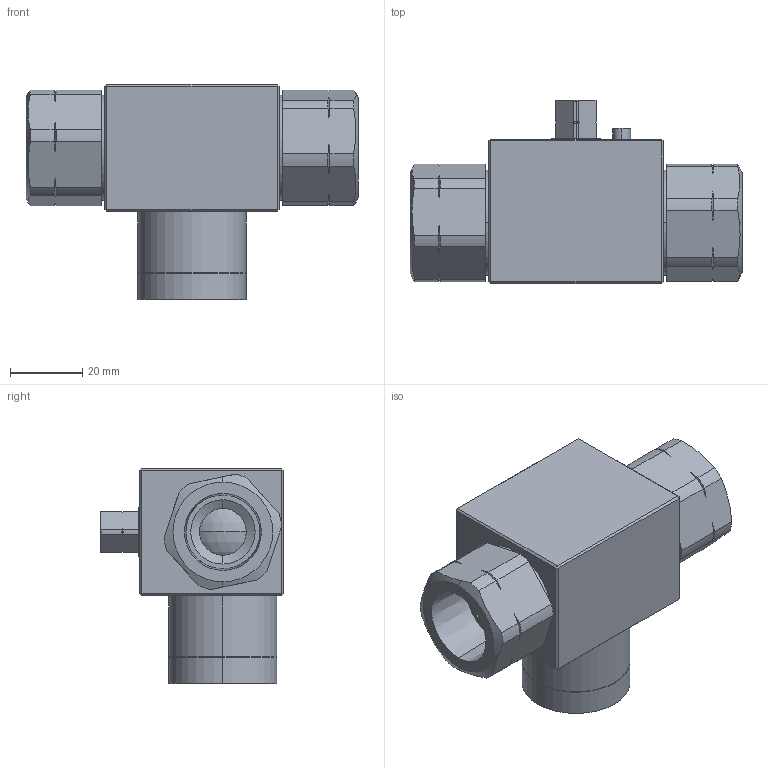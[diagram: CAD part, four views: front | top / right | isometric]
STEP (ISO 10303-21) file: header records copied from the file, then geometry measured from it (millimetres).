
FILE_DESCRIPTION (( 'STEP AP203' ), '1' );
FILE_NAME ('CFM-4TL.STEP', '2022-02-25T15:34:19', ( '' ), ( '' ), 'SwSTEP 2.0', 'SolidWorks 2021', '' );
FILE_SCHEMA (( 'CONFIG_CONTROL_DESIGN' ));
Length unit declared in the file: inch
Products named in the file (9): cfm-4tl-ball; cfm-4-seats; cfm-4-stem-thrust-washer; cfm-4tl-body; cfm-4tl-stem; cfm-4-endport; CFM-4TL; fkm-fitting-oring-4; fkm-stem-oring-4
Assembly tree (11 placements, depth 2):
  CFM-4TL
    cfm-4tl-body
    cfm-4-stem-thrust-washer
    cfm-4tl-stem
    fkm-stem-oring-4
    cfm-4tl-ball
    cfm-4-endport  x2
    cfm-4-seats  x2
    fkm-fitting-oring-4  x2
Bounding box: 92.08 x 50.75 x 59.69 mm (x, y, z)
Volume: 90575.3 mm3; surface area: 39424.2 mm2
Topology: 11 solids, 11 shells, 399 faces, 970 edges, 606 vertices
Faces by surface type: cylinder 159, plane 94, cone 75, torus 54, bspline 14, sphere 3
Entity records: 15173 total; most frequent: CARTESIAN_POINT 7006, DIRECTION 1518, ORIENTED_EDGE 1502, EDGE_CURVE 751, AXIS2_PLACEMENT_3D 635, VERTEX_POINT 468, EDGE_LOOP 349, CIRCLE 317
